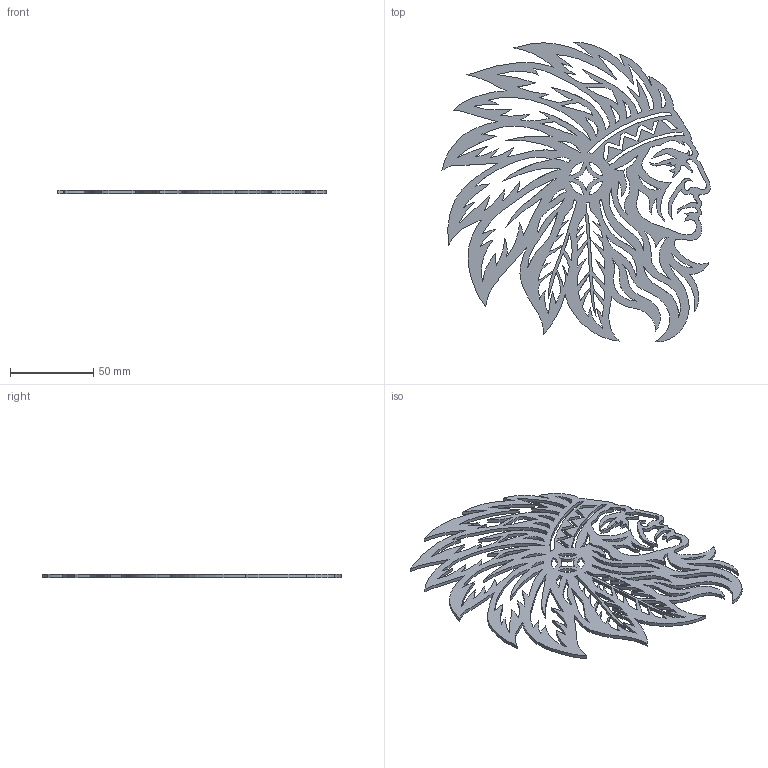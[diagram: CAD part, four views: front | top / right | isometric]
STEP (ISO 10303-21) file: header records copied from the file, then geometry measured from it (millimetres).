
FILE_DESCRIPTION(('STEP AP214'),'1');
FILE_NAME('stp.stp','2026-10-01T02:37:22',(' '),(' '),'Spatial InterOp 3D',' ',' ');
FILE_SCHEMA(('AUTOMOTIVE_DESIGN { 1 0 10303 214 1 1 1 1 }'));
Length unit declared in the file: metre
Products named in the file (1): 1790824933
Bounding box: 161.3 x 179.99 x 2 mm (x, y, z)
Volume: 25154.5 mm3; surface area: 36420.1 mm2
Topology: 1 solids, 1 shells, 323 faces, 963 edges, 642 vertices
Faces by surface type: extrusion 281, plane 26, cylinder 16
Entity records: 17790 total; most frequent: CARTESIAN_POINT 7398, ORIENTED_EDGE 1926, EDGE_CURVE 963, B_SPLINE_CURVE_WITH_KNOTS 834, DIRECTION 800, VECTOR 650, VERTEX_POINT 642, EDGE_LOOP 421
